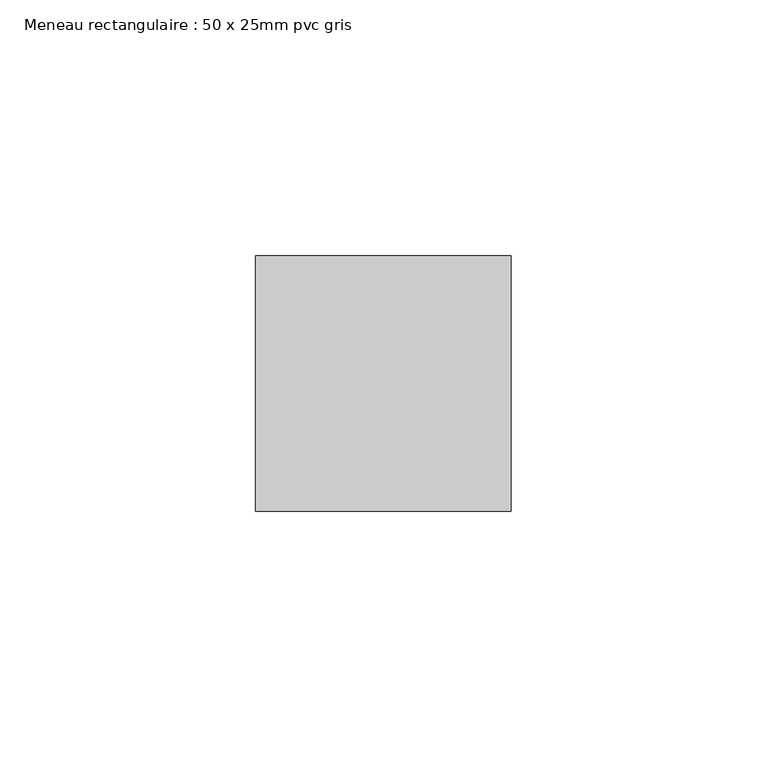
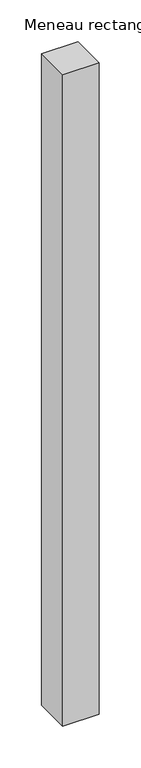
"""IFC4 building model written with IfcOpenShell, lengths in millimetres: member geometry, Meneau rectangulaire : 50 x 25mm pvc gris."""

import ifcopenshell
import ifcopenshell.guid

model = None  # the IFC model being written
_history = None  # IfcOwnerHistory: only IFC2X3 demands one
_inside = {}  # id of a spatial element -> (the spatial element, [elements in it])
_under = {}  # id of a project, library or spatial element -> (it, [spatial elements below it])
_declared = {}  # id of a project -> (the project, [libraries it declares])
_typed = {}  # id of a type object -> (the type object, [elements of that type])
_made_of = {}  # id of a material, layer set ... -> (it, [elements and type objects made of it])


def new_model(schema):
    """Start an empty IFC model of exactly this schema.

    Asked for "IFC4X3", IfcOpenShell would pick the latest addendum, in which some entities
    have other attributes; the version numbers below select the first issue.
    IFC2X3 requires an IfcOwnerHistory on every rooted entity: one is made here for all.
    """
    global model, _history
    if schema == "IFC4X3":
        model = ifcopenshell.file(schema_version=(4, 3, 0, 0))
    else:
        model = ifcopenshell.file(schema=schema)
    _inside.clear()
    _under.clear()
    _declared.clear()
    _typed.clear()
    _made_of.clear()
    _history = None
    if model.schema == "IFC2X3":
        org = make("IfcOrganization", Name="unknown")
        user = make(
            "IfcPersonAndOrganization",
            ThePerson=make("IfcPerson", FamilyName="unknown"),
            TheOrganization=org,
        )
        app = make(
            "IfcApplication",
            ApplicationDeveloper=org,
            Version="unknown",
            ApplicationFullName="unknown",
            ApplicationIdentifier="unknown",
        )
        _history = make(
            "IfcOwnerHistory",
            OwningUser=user,
            OwningApplication=app,
            ChangeAction="ADDED",
            CreationDate=0,
        )
    return model


def make(cls, **values):
    """One entity of the class cls with the attributes given. An attribute that is None is left unset."""
    return model.create_entity(
        cls, **{name: value for name, value in values.items() if value is not None}
    )


def rooted(cls, **values):
    """An entity with a GlobalId (a new one), such as an element, a storey or a relation."""
    return make(cls, GlobalId=ifcopenshell.guid.new(), OwnerHistory=_history, **values)


def si_unit(unit_type, name, prefix=None):
    """IfcSIUnit, for example si_unit("LENGTHUNIT", "METRE", prefix="MILLI")."""
    return make("IfcSIUnit", UnitType=unit_type, Prefix=prefix, Name=name)


def assignment(units):
    """IfcUnitAssignment: the units of a project."""
    return None if units is None else make("IfcUnitAssignment", Units=units)


def point(xyz):
    """IfcCartesianPoint."""
    return None if xyz is None else make("IfcCartesianPoint", Coordinates=xyz)


def direction(xyz):
    """IfcDirection."""
    return None if xyz is None else make("IfcDirection", DirectionRatios=xyz)


def frame(location, z_axis=None, x_axis=None):
    """IfcAxis2Placement3D, a coordinate frame: its origin and axes. An axis left out is left unset."""
    return make(
        "IfcAxis2Placement3D",
        Location=point(location),
        Axis=direction(z_axis),
        RefDirection=direction(x_axis),
    )


def origin():
    """The frame at (0, 0, 0) with its axes left unset."""
    return frame((0.0, 0.0, 0.0))


def place(relative_to, where):
    """IfcLocalPlacement: puts the frame where relative to a parent placement (None: the world)."""
    return make(
        "IfcLocalPlacement", PlacementRelTo=relative_to, RelativePlacement=where
    )


def context(
    kind, dimensions, precision=None, world=None, true_north=None, identifier=None
):
    """IfcGeometricRepresentationContext, for example the 3D "Model" context."""
    return make(
        "IfcGeometricRepresentationContext",
        ContextIdentifier=identifier,
        ContextType=kind,
        CoordinateSpaceDimension=dimensions,
        Precision=precision,
        WorldCoordinateSystem=world,
        TrueNorth=true_north,
    )


def project(units=None, contexts=None):
    """IfcProject with its units and contexts."""
    return rooted(
        "IfcProject",
        Name="project",
        RepresentationContexts=contexts,
        UnitsInContext=assignment(units),
    )


def spatial(cls, under=None, at=None, **own):
    """A site, building, storey or space (cls), placed at a placement, below another one or the project."""
    s = rooted(cls, ObjectPlacement=at, **own)
    if under is not None:
        _under.setdefault(under.id(), (under, []))[1].append(s)
    return s


def polyline(points):
    """IfcPolyline through the points."""
    return make("IfcPolyline", Points=[point(p) for p in points])


def outline(outer, holes=None, kind="AREA"):
    """IfcArbitraryClosedProfileDef: a profile drawn as a closed curve; with holes, ...WithVoids."""
    if holes is None:
        return make("IfcArbitraryClosedProfileDef", ProfileType=kind, OuterCurve=outer)
    return make(
        "IfcArbitraryProfileDefWithVoids",
        ProfileType=kind,
        OuterCurve=outer,
        InnerCurves=holes,
    )


def extrude(swept, where, along, depth):
    """IfcExtrudedAreaSolid: the profile swept, set in the frame where, extruded along a direction by depth."""
    return make(
        "IfcExtrudedAreaSolid",
        SweptArea=swept,
        Position=where,
        ExtrudedDirection=direction(along),
        Depth=depth,
    )


def shape(context_of_items, identifier, shape_type, items):
    """IfcShapeRepresentation: the items that make up one representation, for example the "Body"."""
    return make(
        "IfcShapeRepresentation",
        ContextOfItems=context_of_items,
        RepresentationIdentifier=identifier,
        RepresentationType=shape_type,
        Items=items,
    )


def source(mapping_origin, context_of_items, identifier, shape_type, items):
    """IfcRepresentationMap: a shape defined once, which mapped items show again and again."""
    return make(
        "IfcRepresentationMap",
        MappingOrigin=mapping_origin,
        MappedRepresentation=shape(context_of_items, identifier, shape_type, items),
    )


def transform(
    local_origin,
    x_axis=None,
    y_axis=None,
    z_axis=None,
    scale=None,
    scale2=None,
    scale3=None,
    uniform=True,
):
    """IfcCartesianTransformationOperator3D, or its non-uniform kind. x_axis, y_axis, z_axis: its Axis1, 2, 3."""
    if uniform:
        return make(
            "IfcCartesianTransformationOperator3D",
            Axis1=direction(x_axis),
            Axis2=direction(y_axis),
            LocalOrigin=point(local_origin),
            Scale=scale,
            Axis3=direction(z_axis),
        )
    return make(
        "IfcCartesianTransformationOperator3DnonUniform",
        Axis1=direction(x_axis),
        Axis2=direction(y_axis),
        LocalOrigin=point(local_origin),
        Scale=scale,
        Axis3=direction(z_axis),
        Scale2=scale2,
        Scale3=scale3,
    )


def mapped(mapping_source, mapping_target):
    """IfcMappedItem: shows the shape of a source again, moved by a transform."""
    return make(
        "IfcMappedItem", MappingSource=mapping_source, MappingTarget=mapping_target
    )


def made_of(thing, what):
    """Note that an element or type object is made of a material, layer set ...; save() writes the relation."""
    if what is not None:
        _made_of.setdefault(what.id(), (what, []))[1].append(thing)
    return thing


def element(
    cls,
    number,
    at=None,
    inside=None,
    cuts=None,
    type_object=None,
    material=None,
    context=None,
    identifier="Body",
    shape_type=None,
    held_by="IfcProductDefinitionShape",
    body=None,
    shapes=None,
    **own,
):
    """One element of the class cls, such as IfcWall. Its Tag is "e" and its number.

    at: its placement. inside: the storey or other place that contains it. cuts: it is an
    opening in that element (IfcRelVoidsElement). A single representation is given by context,
    identifier, shape_type and body (its items); several are given by shapes. held_by: the class
    of the entity that holds the representations. save() writes the other relations.
    """
    e = rooted(cls, Tag="e%d" % number, ObjectPlacement=at, **own)
    if body is not None:
        shapes = [shape(context, identifier, shape_type, body)]
    if shapes is not None:
        e.Representation = make(held_by, Representations=shapes)
    if inside is not None:
        _inside.setdefault(inside.id(), (inside, []))[1].append(e)
    if cuts is not None:
        rooted(
            "IfcRelVoidsElement", RelatingBuildingElement=cuts, RelatedOpeningElement=e
        )
    if type_object is not None:
        _typed.setdefault(type_object.id(), (type_object, []))[1].append(e)
    return made_of(e, material)


def aggregate(whole, parts):
    """IfcRelAggregates: a whole, such as a stair, and the parts it consists of."""
    return rooted("IfcRelAggregates", RelatingObject=whole, RelatedObjects=parts)


def save(model, path):
    """Write the relations noted so far, then the file.

    IfcRelAggregates (storeys below a building ...), IfcRelContainedInSpatialStructure (elements
    in a storey), IfcRelDefinesByType, IfcRelAssociatesMaterial and IfcRelDeclares: one each for
    every whole, place, type object, material and project.
    """
    for whole, parts in _under.values():
        aggregate(whole, parts)
    for where, things in _inside.values():
        rooted(
            "IfcRelContainedInSpatialStructure",
            RelatedElements=things,
            RelatingStructure=where,
        )
    for kind, things in _typed.values():
        rooted("IfcRelDefinesByType", RelatedObjects=things, RelatingType=kind)
    for what, things in _made_of.values():
        rooted("IfcRelAssociatesMaterial", RelatedObjects=things, RelatingMaterial=what)
    for by, libraries in _declared.values():
        rooted("IfcRelDeclares", RelatingContext=by, RelatedDefinitions=libraries)
    model.write(path)


def meneau_rectangulaire_50_x_25mm_pvc_gris_b2412039(model_context):
    return source(origin(), model_context, "Body", "SweptSolid", [
        extrude(outline(polyline([(0.0, 0.0), (0.0, -50.0), (-50.0, -50.0), (-50.0, 0.0), (0.0, 0.0)])), frame((0.0, 0.0, -948.0026781), z_axis=(0.0, 0.0, 1.0), x_axis=(1.0, 0.0, 0.0)), (0.0, 0.0, 1.0), 948.0026781),
    ])


if __name__ == "__main__":
    model = new_model("IFC4")
    model_context = context("Model", 3, world=origin())
    ifc_project = project(units=[si_unit("LENGTHUNIT", "METRE", prefix="MILLI")], contexts=[model_context])
    site = spatial("IfcSite", under=ifc_project)
    building = spatial("IfcBuilding", under=site)
    placement = place(None, origin())
    meneau_rectangulaire_50_x_25mm_pvc_gris_shape = meneau_rectangulaire_50_x_25mm_pvc_gris_b2412039(model_context)
    element("IfcMember", 1, ObjectType="Meneau rectangulaire : 50 x 25mm pvc gris", at=placement, inside=building, context=model_context, shape_type="MappedRepresentation", body=[
        mapped(meneau_rectangulaire_50_x_25mm_pvc_gris_shape, transform((0.0, 0.0, 0.0), x_axis=(1.0, 0.0, 0.0), y_axis=(0.0, 1.0, 0.0), z_axis=(0.0, 0.0, 1.0))),
    ])
    save(model, "model.ifc")
